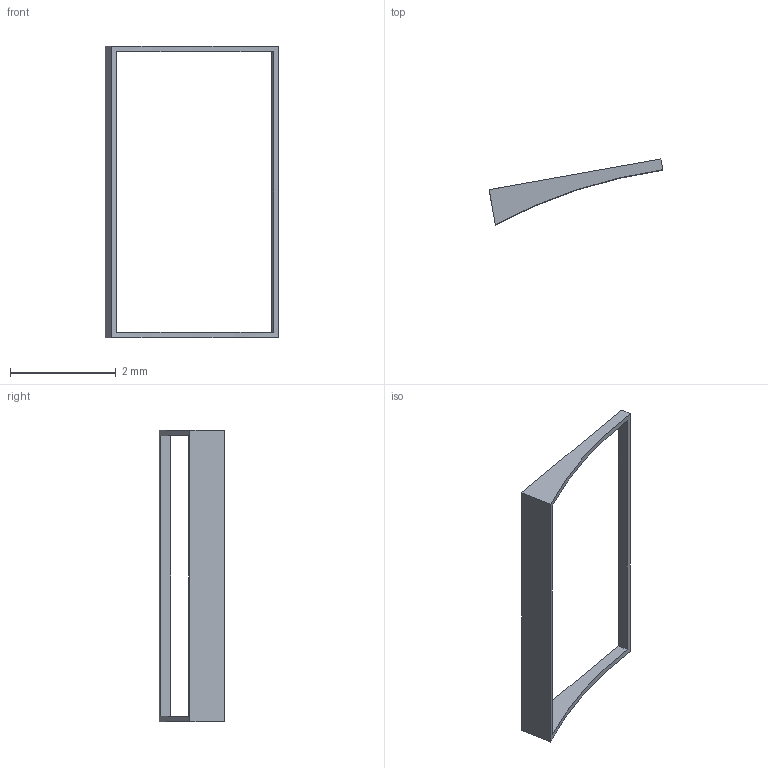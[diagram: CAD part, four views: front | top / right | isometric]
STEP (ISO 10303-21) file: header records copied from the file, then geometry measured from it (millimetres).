
FILE_DESCRIPTION(('FreeCAD Model'),'2;1');
FILE_NAME('Open CASCADE Shape Model','2026-10-23T21:15:57',('FreeCAD'),( 'FreeCAD'),'Open CASCADE STEP processor 7.8','FreeCAD','Unknown');
FILE_SCHEMA(('AUTOMOTIVE_DESIGN { 1 0 10303 214 1 1 1 1 }'));
Length unit declared in the file: millimetre
Products named in the file (1): Open CASCADE STEP translator 7.8 11
Bounding box: 3.29 x 1.24 x 5.5 mm (x, y, z)
Volume: 0.7 mm3; surface area: 17.1 mm2
Topology: 1 solids, 1 shells, 10 faces, 24 edges, 16 vertices
Faces by surface type: plane 9, cylinder 1
Entity records: 306 total; most frequent: CARTESIAN_POINT 51, DIRECTION 50, ORIENTED_EDGE 48, EDGE_CURVE 24, LINE 20, VECTOR 20, VERTEX_POINT 16, AXIS2_PLACEMENT_3D 15
